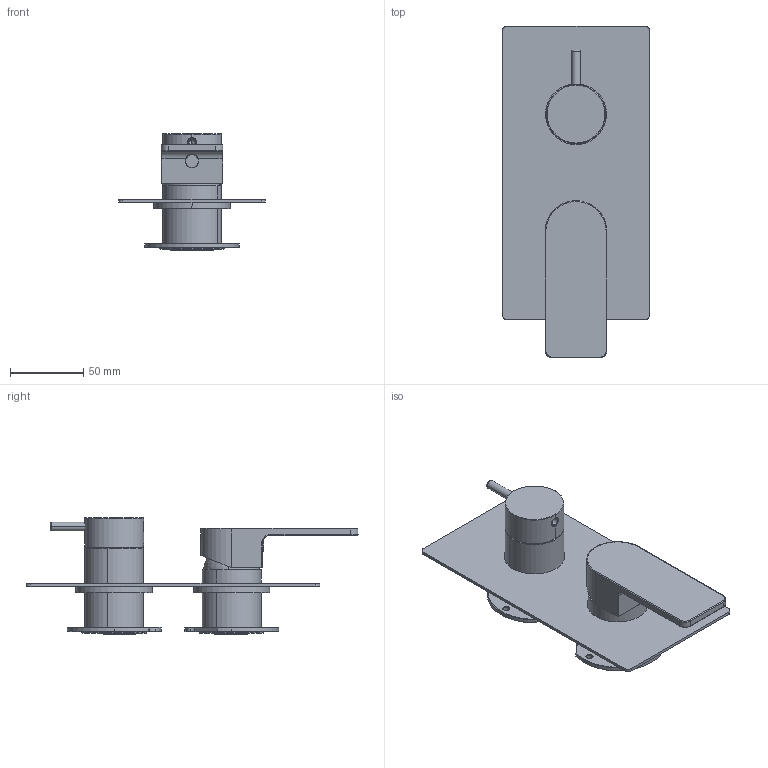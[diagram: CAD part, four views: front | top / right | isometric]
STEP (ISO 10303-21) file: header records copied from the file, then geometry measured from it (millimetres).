
FILE_DESCRIPTION (( 'STEP AP203' ), '1' );
FILE_NAME ('EMT2.STEP', '2024-01-30T10:34:34', ( '' ), ( '' ), 'SwSTEP 2.0', 'SolidWorks 2023', '' );
FILE_SCHEMA (( 'CONFIG_CONTROL_DESIGN' ));
Length unit declared in the file: millimetre
Products named in the file (23): C31.00.0006.01; AS743_00; C24.1833.00.0; AS756_00; EMT2; C10.00.0015; C47.00.0015; C11.14.0007; AS1078; C23.1878.01; C10.00.0011; C24.0075.00.0; C12.00.0057; C18.10.0011.01; C24.1828.00.0; C28.1829.00.0; C24.1830.00.0; AS747_00; C25.2695.00; C25.2056.00.0; C24.1837.00.0; C25.1173.00.0; C24.1879.00.1
Assembly tree (23 placements, depth 4):
  EMT2
    AS1078
      C25.2695.00
      C25.2056.00.0  x2
    AS743_00
      C24.0075.00.0
      C10.00.0011
      C24.1833.00.0
      C24.1828.00.0
      C28.1829.00.0
      AS756_00
        C24.1879.00.1
        C25.1173.00.0
        C23.1878.01
        C11.14.0007
    AS747_00
      C47.00.0015
      C10.00.0015
      C24.1830.00.0
      C12.00.0057
      C24.1837.00.0
      C31.00.0006.01
    C18.10.0011.01
Bounding box: 100 x 226 x 79.3 mm (x, y, z)
Volume: 197753.2 mm3; surface area: 137583.8 mm2
Topology: 22 solids, 22 shells, 1068 faces, 2471 edges, 1455 vertices
Faces by surface type: cylinder 425, plane 283, cone 160, torus 109, bspline 57, sphere 34
Entity records: 34210 total; most frequent: CARTESIAN_POINT 7630, DIRECTION 5485, ORIENTED_EDGE 4786, EDGE_CURVE 2393, AXIS2_PLACEMENT_3D 2241, VERTEX_POINT 1437, CIRCLE 1215, EDGE_LOOP 1178
